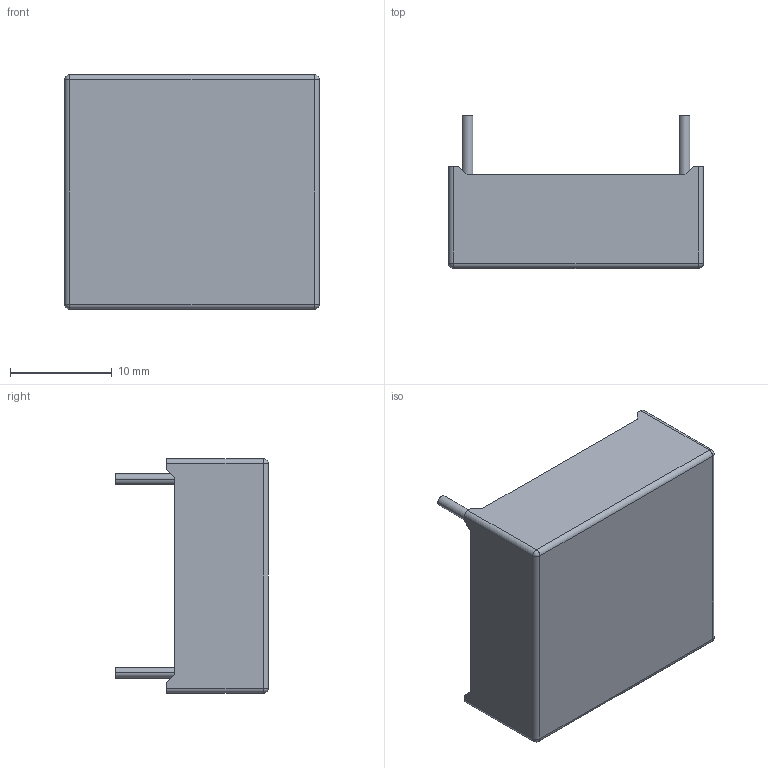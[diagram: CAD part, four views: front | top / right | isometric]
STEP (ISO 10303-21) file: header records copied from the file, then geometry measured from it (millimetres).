
FILE_DESCRIPTION((''),'2;1');
FILE_NAME('TFMOV20S151L-3-001','2020-08-11T',('SET-01114'),(''),'PRO/ENGINEER BY PARAMETRIC TECHNOLOGY CORPORATION, 2012310','PRO/ENGINEER BY PARAMETRIC TECHNOLOGY CORPORATION, 2012310','');
FILE_SCHEMA(('CONFIG_CONTROL_DESIGN','SHAPE_APPEARANCE_LAYERS_GROUPS'));
Length unit declared in the file: millimetre
Products named in the file (1): TFMOV20S151L-3-001
Bounding box: 25 x 15 x 23 mm (x, y, z)
Volume: 1831.1 mm3; surface area: 3659.8 mm2
Topology: 1 solids, 2 shells, 102 faces, 264 edges, 160 vertices
Faces by surface type: plane 58, cylinder 28, sphere 16
Entity records: 3829 total; most frequent: CARTESIAN_POINT 567, DIRECTION 520, ORIENTED_EDGE 496, PRESENTATION_STYLE_ASSIGNMENT 249, STYLED_ITEM 249, CURVE_STYLE 248, EDGE_CURVE 248, AXIS2_PLACEMENT_3D 174
